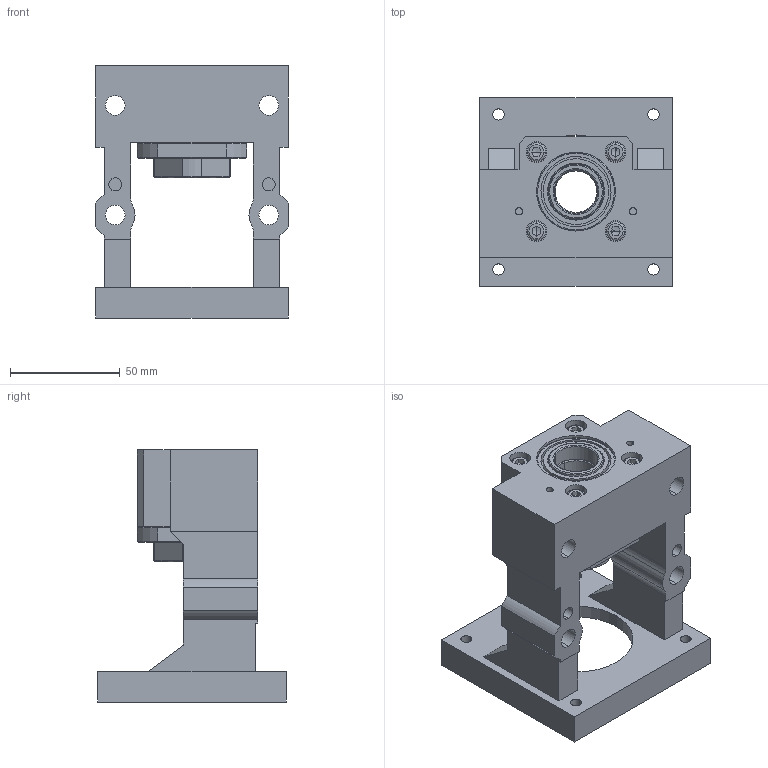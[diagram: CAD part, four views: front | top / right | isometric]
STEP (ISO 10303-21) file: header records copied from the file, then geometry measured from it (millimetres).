
FILE_DESCRIPTION (( 'STEP AP203' ), '1' );
FILE_NAME ('MBCA20-X.STEP', '2019-07-29T02:00:48', ( '' ), ( '' ), 'SwSTEP 2.0', 'SolidWorks 2018', '' );
FILE_SCHEMA (( 'CONFIG_CONTROL_DESIGN' ));
Length unit declared in the file: millimetre
Products named in the file (2): MBCA20-X
Bounding box: 88 x 86 x 115 mm (x, y, z)
Surface area: 66341.9 mm2 (no closed solid volume)
Topology: 0 solids, 18 shells, 270 faces, 707 edges, 457 vertices
Faces by surface type: plane 108, cylinder 102, cone 38, torus 18, bspline 4
Entity records: 9073 total; most frequent: CARTESIAN_POINT 2226, DIRECTION 1450, ORIENTED_EDGE 1283, EDGE_CURVE 699, AXIS2_PLACEMENT_3D 563, VERTEX_POINT 457, EDGE_LOOP 330, LINE 324
